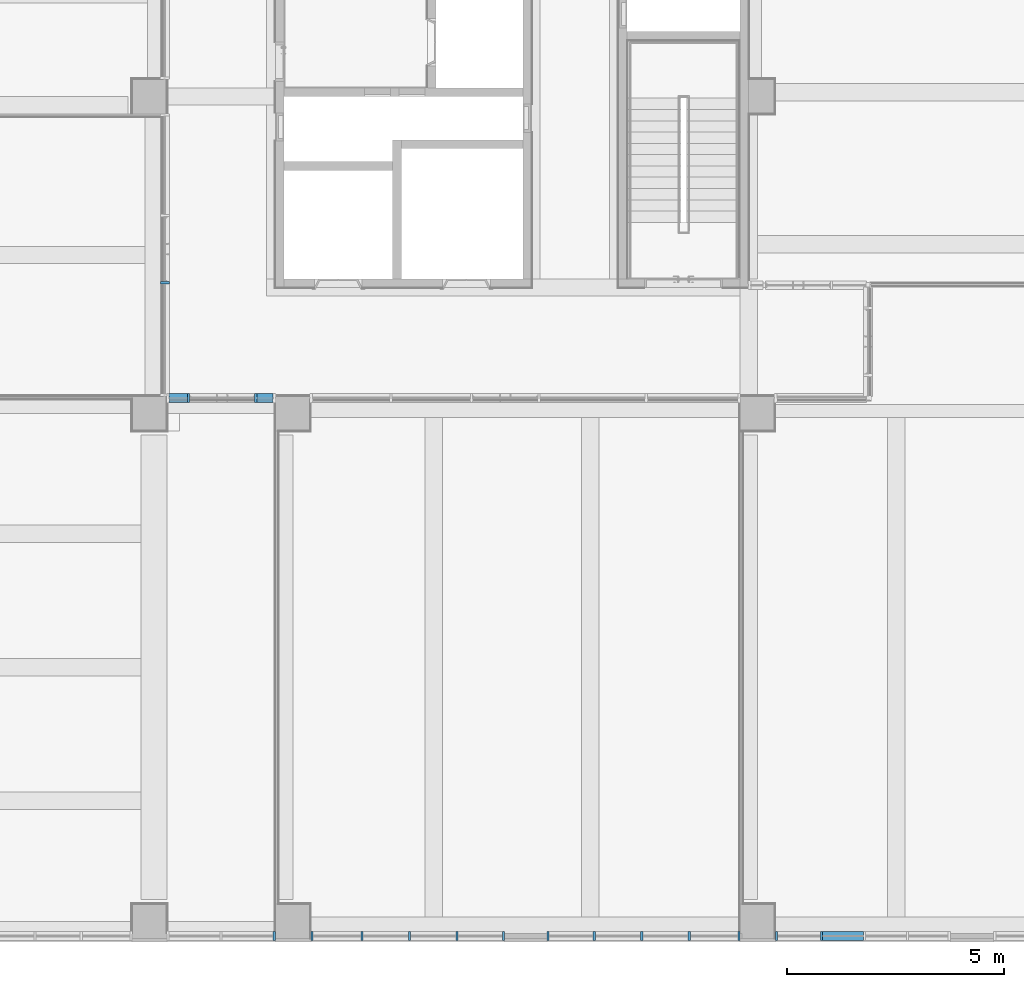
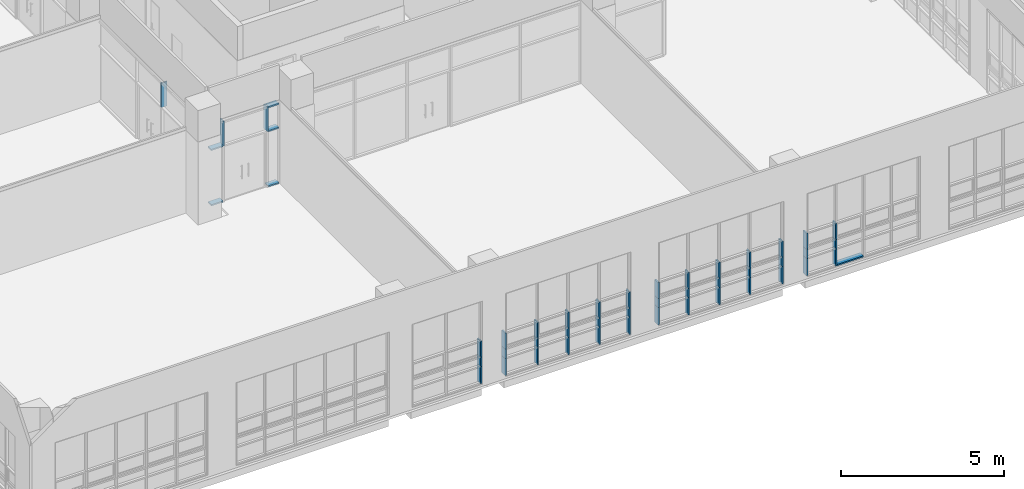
# One storey, part 16 of 74: 48 members, 6 elements without a shape of their own.
"""IFC2X3 building model written with IfcOpenShell, lengths in millimetres."""

import ifcopenshell
import ifcopenshell.guid

model = None  # the IFC model being written
_history = None  # IfcOwnerHistory: only IFC2X3 demands one
_inside = {}  # id of a spatial element -> (the spatial element, [elements in it])
_under = {}  # id of a project, library or spatial element -> (it, [spatial elements below it])
_declared = {}  # id of a project -> (the project, [libraries it declares])
_typed = {}  # id of a type object -> (the type object, [elements of that type])
_made_of = {}  # id of a material, layer set ... -> (it, [elements and type objects made of it])


def new_model(schema):
    """Start an empty IFC model of exactly this schema.

    Asked for "IFC4X3", IfcOpenShell would pick the latest addendum, in which some entities
    have other attributes; the version numbers below select the first issue.
    IFC2X3 requires an IfcOwnerHistory on every rooted entity: one is made here for all.
    """
    global model, _history
    if schema == "IFC4X3":
        model = ifcopenshell.file(schema_version=(4, 3, 0, 0))
    else:
        model = ifcopenshell.file(schema=schema)
    _inside.clear()
    _under.clear()
    _declared.clear()
    _typed.clear()
    _made_of.clear()
    _history = None
    if model.schema == "IFC2X3":
        org = make("IfcOrganization", Name="unknown")
        user = make(
            "IfcPersonAndOrganization",
            ThePerson=make("IfcPerson", FamilyName="unknown"),
            TheOrganization=org,
        )
        app = make(
            "IfcApplication",
            ApplicationDeveloper=org,
            Version="unknown",
            ApplicationFullName="unknown",
            ApplicationIdentifier="unknown",
        )
        _history = make(
            "IfcOwnerHistory",
            OwningUser=user,
            OwningApplication=app,
            ChangeAction="ADDED",
            CreationDate=0,
        )
    return model


def make(cls, **values):
    """One entity of the class cls with the attributes given. An attribute that is None is left unset."""
    return model.create_entity(
        cls, **{name: value for name, value in values.items() if value is not None}
    )


def entity(cls, *values):
    """Any entity or typed value of the class cls, its attributes in the order of the schema. None: left unset."""
    e = model.create_entity(cls)
    for i, value in enumerate(values):
        if value is not None:
            e[i] = value
    return e


def rooted(cls, **values):
    """An entity with a GlobalId (a new one), such as an element, a storey or a relation."""
    return make(cls, GlobalId=ifcopenshell.guid.new(), OwnerHistory=_history, **values)


def si_unit(unit_type, name, prefix=None):
    """IfcSIUnit, for example si_unit("LENGTHUNIT", "METRE", prefix="MILLI")."""
    return make("IfcSIUnit", UnitType=unit_type, Prefix=prefix, Name=name)


def converted_unit(unit_type, name, factor, base, dimensions=None, offset=None):
    """IfcConversionBasedUnit, such as the inch: factor (a typed value) times the base unit."""
    return make(
        "IfcConversionBasedUnit"
        if offset is None
        else "IfcConversionBasedUnitWithOffset",
        ConversionOffset=offset,
        Dimensions=None
        if dimensions is None
        else entity("IfcDimensionalExponents", *dimensions),
        UnitType=unit_type,
        Name=name,
        ConversionFactor=make(
            "IfcMeasureWithUnit", ValueComponent=factor, UnitComponent=base
        ),
    )


def derived_unit(unit_type, elements):
    """IfcDerivedUnit: a product of units, each with its exponent."""
    return make(
        "IfcDerivedUnit",
        Elements=[
            make("IfcDerivedUnitElement", Unit=unit, Exponent=power)
            for unit, power in elements
        ],
        UnitType=unit_type,
    )


def assignment(units):
    """IfcUnitAssignment: the units of a project."""
    return None if units is None else make("IfcUnitAssignment", Units=units)


def point(xyz):
    """IfcCartesianPoint."""
    return None if xyz is None else make("IfcCartesianPoint", Coordinates=xyz)


def direction(xyz):
    """IfcDirection."""
    return None if xyz is None else make("IfcDirection", DirectionRatios=xyz)


def frame(location, z_axis=None, x_axis=None):
    """IfcAxis2Placement3D, a coordinate frame: its origin and axes. An axis left out is left unset."""
    return make(
        "IfcAxis2Placement3D",
        Location=point(location),
        Axis=direction(z_axis),
        RefDirection=direction(x_axis),
    )


def frame_2d(location, x_axis=None):
    """IfcAxis2Placement2D, a coordinate frame in the plane: its origin and x axis."""
    return make(
        "IfcAxis2Placement2D", Location=point(location), RefDirection=direction(x_axis)
    )


def origin():
    """The frame at (0, 0, 0) with its axes left unset."""
    return frame((0.0, 0.0, 0.0))


def origin_2d_with_axis():
    """The frame at (0, 0) in the plane with the x axis (1, 0) written out."""
    return frame_2d((0.0, 0.0), x_axis=(1.0, 0.0))


def place(relative_to, where):
    """IfcLocalPlacement: puts the frame where relative to a parent placement (None: the world)."""
    return make(
        "IfcLocalPlacement", PlacementRelTo=relative_to, RelativePlacement=where
    )


def context(
    kind, dimensions, precision=None, world=None, true_north=None, identifier=None
):
    """IfcGeometricRepresentationContext, for example the 3D "Model" context."""
    return make(
        "IfcGeometricRepresentationContext",
        ContextIdentifier=identifier,
        ContextType=kind,
        CoordinateSpaceDimension=dimensions,
        Precision=precision,
        WorldCoordinateSystem=world,
        TrueNorth=true_north,
    )


def subcontext(parent, identifier, kind, view, scale=None):
    """IfcGeometricRepresentationSubContext, for example "Body" below "Model"."""
    return make(
        "IfcGeometricRepresentationSubContext",
        ContextIdentifier=identifier,
        ContextType=kind,
        ParentContext=parent,
        TargetScale=scale,
        TargetView=view,
    )


def project(units=None, contexts=None):
    """IfcProject with its units and contexts."""
    return rooted(
        "IfcProject",
        Name="project",
        RepresentationContexts=contexts,
        UnitsInContext=assignment(units),
    )


def spatial(cls, under=None, at=None, **own):
    """A site, building, storey or space (cls), placed at a placement, below another one or the project."""
    s = rooted(cls, ObjectPlacement=at, **own)
    if under is not None:
        _under.setdefault(under.id(), (under, []))[1].append(s)
    return s


def profile(cls, at=None, kind="AREA", **sizes):
    """A parametric profile (cls). Its sizes go by their IFC names, for example OverallWidth=200.0."""
    return make(cls, ProfileType=kind, Position=at, **sizes)


def rectangle(**sizes):
    """IfcRectangleProfileDef."""
    return profile("IfcRectangleProfileDef", **sizes)


def extrude(swept, where, along, depth):
    """IfcExtrudedAreaSolid: the profile swept, set in the frame where, extruded along a direction by depth."""
    return make(
        "IfcExtrudedAreaSolid",
        SweptArea=swept,
        Position=where,
        ExtrudedDirection=direction(along),
        Depth=depth,
    )


def shape(context_of_items, identifier, shape_type, items):
    """IfcShapeRepresentation: the items that make up one representation, for example the "Body"."""
    return make(
        "IfcShapeRepresentation",
        ContextOfItems=context_of_items,
        RepresentationIdentifier=identifier,
        RepresentationType=shape_type,
        Items=items,
    )


def source(mapping_origin, context_of_items, identifier, shape_type, items):
    """IfcRepresentationMap: a shape defined once, which mapped items show again and again."""
    return make(
        "IfcRepresentationMap",
        MappingOrigin=mapping_origin,
        MappedRepresentation=shape(context_of_items, identifier, shape_type, items),
    )


def transform(
    local_origin,
    x_axis=None,
    y_axis=None,
    z_axis=None,
    scale=None,
    scale2=None,
    scale3=None,
    uniform=True,
):
    """IfcCartesianTransformationOperator3D, or its non-uniform kind. x_axis, y_axis, z_axis: its Axis1, 2, 3."""
    if uniform:
        return make(
            "IfcCartesianTransformationOperator3D",
            Axis1=direction(x_axis),
            Axis2=direction(y_axis),
            LocalOrigin=point(local_origin),
            Scale=scale,
            Axis3=direction(z_axis),
        )
    return make(
        "IfcCartesianTransformationOperator3DnonUniform",
        Axis1=direction(x_axis),
        Axis2=direction(y_axis),
        LocalOrigin=point(local_origin),
        Scale=scale,
        Axis3=direction(z_axis),
        Scale2=scale2,
        Scale3=scale3,
    )


def mapped(mapping_source, mapping_target):
    """IfcMappedItem: shows the shape of a source again, moved by a transform."""
    return make(
        "IfcMappedItem", MappingSource=mapping_source, MappingTarget=mapping_target
    )


def material(Name=None, Category=None):
    """IfcMaterial."""
    return make("IfcMaterial", Name=Name, Category=Category)


def made_of(thing, what):
    """Note that an element or type object is made of a material, layer set ...; save() writes the relation."""
    if what is not None:
        _made_of.setdefault(what.id(), (what, []))[1].append(thing)
    return thing


def type_object(cls, material=None, **own):
    """A type object (cls), such as IfcWallType, which elements share."""
    return made_of(rooted(cls, **own), material)


def type_shapes(of_type, sources):
    """Give a type object the sources (RepresentationMaps) that its elements show as mapped items."""
    of_type.RepresentationMaps = sources


def element(
    cls,
    number,
    at=None,
    inside=None,
    cuts=None,
    type_object=None,
    material=None,
    context=None,
    identifier="Body",
    shape_type=None,
    held_by="IfcProductDefinitionShape",
    body=None,
    shapes=None,
    **own,
):
    """One element of the class cls, such as IfcWall. Its Tag is "e" and its number.

    at: its placement. inside: the storey or other place that contains it. cuts: it is an
    opening in that element (IfcRelVoidsElement). A single representation is given by context,
    identifier, shape_type and body (its items); several are given by shapes. held_by: the class
    of the entity that holds the representations. save() writes the other relations.
    """
    e = rooted(cls, Tag="e%d" % number, ObjectPlacement=at, **own)
    if body is not None:
        shapes = [shape(context, identifier, shape_type, body)]
    if shapes is not None:
        e.Representation = make(held_by, Representations=shapes)
    if inside is not None:
        _inside.setdefault(inside.id(), (inside, []))[1].append(e)
    if cuts is not None:
        rooted(
            "IfcRelVoidsElement", RelatingBuildingElement=cuts, RelatedOpeningElement=e
        )
    if type_object is not None:
        _typed.setdefault(type_object.id(), (type_object, []))[1].append(e)
    return made_of(e, material)


def aggregate(whole, parts):
    """IfcRelAggregates: a whole, such as a stair, and the parts it consists of."""
    return rooted("IfcRelAggregates", RelatingObject=whole, RelatedObjects=parts)


def save(model, path):
    """Write the relations noted so far, then the file.

    IfcRelAggregates (storeys below a building ...), IfcRelContainedInSpatialStructure (elements
    in a storey), IfcRelDefinesByType, IfcRelAssociatesMaterial and IfcRelDeclares: one each for
    every whole, place, type object, material and project.
    """
    for whole, parts in _under.values():
        aggregate(whole, parts)
    for where, things in _inside.values():
        rooted(
            "IfcRelContainedInSpatialStructure",
            RelatedElements=things,
            RelatingStructure=where,
        )
    for kind, things in _typed.values():
        rooted("IfcRelDefinesByType", RelatedObjects=things, RelatingType=kind)
    for what, things in _made_of.values():
        rooted("IfcRelAssociatesMaterial", RelatedObjects=things, RelatingMaterial=what)
    for by, libraries in _declared.values():
        rooted("IfcRelDeclares", RelatingContext=by, RelatedDefinitions=libraries)
    model.write(path)


model = new_model("IFC2X3")

# Units and contexts
model_context = context("Model", 3, precision=0.01, world=origin(), true_north=direction((6.123031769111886e-17, 1.0)))
body_context = subcontext(model_context, "Body", "Model", "MODEL_VIEW")
ifc_project = project(units=[si_unit("LENGTHUNIT", "METRE", prefix="MILLI"), si_unit("AREAUNIT", "SQUARE_METRE"), si_unit("VOLUMEUNIT", "CUBIC_METRE"), converted_unit("PLANEANGLEUNIT", "DEGREE", entity("IfcRatioMeasure", 0.017453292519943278), si_unit("PLANEANGLEUNIT", "RADIAN"), dimensions=[0, 0, 0, 0, 0, 0, 0]), si_unit("MASSUNIT", "GRAM", prefix="KILO"), derived_unit("MASSDENSITYUNIT", [(si_unit("MASSUNIT", "GRAM", prefix="KILO"), 1), (si_unit("LENGTHUNIT", "METRE"), -3)]), derived_unit("MOMENTOFINERTIAUNIT", [(si_unit("LENGTHUNIT", "METRE"), 4)]), si_unit("TIMEUNIT", "SECOND"), si_unit("FREQUENCYUNIT", "HERTZ"), si_unit("THERMODYNAMICTEMPERATUREUNIT", "DEGREE_CELSIUS"), derived_unit("THERMALTRANSMITTANCEUNIT", [(si_unit("MASSUNIT", "GRAM", prefix="KILO"), 1), (si_unit("THERMODYNAMICTEMPERATUREUNIT", "KELVIN"), -1), (si_unit("TIMEUNIT", "SECOND"), -3)]), derived_unit("VOLUMETRICFLOWRATEUNIT", [(si_unit("LENGTHUNIT", "METRE"), 3), (si_unit("TIMEUNIT", "SECOND"), -1)]), derived_unit("MASSFLOWRATEUNIT", [(si_unit("MASSUNIT", "GRAM", prefix="KILO"), 1), (si_unit("TIMEUNIT", "SECOND"), -1)]), derived_unit("ROTATIONALFREQUENCYUNIT", [(si_unit("TIMEUNIT", "SECOND"), -1)]), si_unit("ELECTRICCURRENTUNIT", "AMPERE"), si_unit("ELECTRICVOLTAGEUNIT", "VOLT"), si_unit("POWERUNIT", "WATT"), si_unit("FORCEUNIT", "NEWTON", prefix="KILO"), si_unit("ILLUMINANCEUNIT", "LUX"), si_unit("LUMINOUSFLUXUNIT", "LUMEN"), si_unit("LUMINOUSINTENSITYUNIT", "CANDELA"), derived_unit("USERDEFINED", [(si_unit("MASSUNIT", "GRAM", prefix="KILO"), -1), (si_unit("LENGTHUNIT", "METRE"), -2), (si_unit("TIMEUNIT", "SECOND"), 3), (si_unit("LUMINOUSFLUXUNIT", "LUMEN"), 1)]), derived_unit("SOUNDPOWERUNIT", [(si_unit("MASSUNIT", "GRAM", prefix="KILO"), 1), (si_unit("LENGTHUNIT", "METRE"), 2), (si_unit("TIMEUNIT", "SECOND"), -3)]), derived_unit("SOUNDPRESSUREUNIT", [(si_unit("MASSUNIT", "GRAM", prefix="KILO"), 1), (si_unit("LENGTHUNIT", "METRE"), -1), (si_unit("TIMEUNIT", "SECOND"), -2)]), derived_unit("LINEARVELOCITYUNIT", [(si_unit("LENGTHUNIT", "METRE"), 1), (si_unit("TIMEUNIT", "SECOND"), -1)]), si_unit("PRESSUREUNIT", "PASCAL"), derived_unit("USERDEFINED", [(si_unit("LENGTHUNIT", "METRE"), -2), (si_unit("MASSUNIT", "GRAM", prefix="KILO"), 1), (si_unit("TIMEUNIT", "SECOND"), -2)]), derived_unit("LINEARFORCEUNIT", [(si_unit("MASSUNIT", "GRAM", prefix="KILO"), 1), (si_unit("LENGTHUNIT", "METRE"), 1), (si_unit("TIMEUNIT", "SECOND"), -2), (si_unit("LENGTHUNIT", "METRE"), -1)]), derived_unit("PLANARFORCEUNIT", [(si_unit("MASSUNIT", "GRAM", prefix="KILO"), 1), (si_unit("LENGTHUNIT", "METRE"), 1), (si_unit("TIMEUNIT", "SECOND"), -2), (si_unit("LENGTHUNIT", "METRE"), -2)])], contexts=[model_context])

# Site, building, storey
site_placement = place(None, frame((-14167.972527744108, -657.2125860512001, 0.0)))
site = spatial("IfcSite", under=ifc_project, at=site_placement, Name="Default", CompositionType="ELEMENT")
building_placement = place(site_placement, origin())
building = spatial("IfcBuilding", under=site, at=building_placement, Name="Sample Building", CompositionType="ELEMENT")
storey_placement = place(building_placement, frame((0.0, 0.0, 4800.0)))
storey = spatial("IfcBuildingStorey", under=building, at=storey_placement, Name="지상 2층", CompositionType="ELEMENT", Elevation=4800.000000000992)

# Curtain wall, member
curtain_wall_type = type_object("IfcCurtainWallType", Name="커튼월:CW112-스테인리스 스틸 커튼월", PredefinedType="NOTDEFINED")
curtain_wall_1_placement = place(storey_placement, frame((0.0, 0.0, -4800.0)))
curtain_wall_1 = element("IfcCurtainWall", 1, at=curtain_wall_1_placement, inside=storey, type_object=curtain_wall_type, Name="커튼월:CW112-스테인리스 스틸 커튼월", ObjectType="커튼월:CW112-스테인리스 스틸 커튼월")
ifc_material = material(Name="<Unnamed>")
member_type_1 = type_object("IfcMemberType", Name="직사각형 멀리언:CW200-직사각형 멀리언 50x200mm", PredefinedType="MULLION", material=ifc_material)
shared_shape_1 = source(origin(), body_context, "Body", "SweptSolid", [
    extrude(rectangle(XDim=200.0, YDim=50.0, at=origin_2d_with_axis()), frame((-25.0, 0.0, -650.0), z_axis=(0.0, 0.0, 1.0), x_axis=(0.0, -1.0, 0.0)), (0.0, 0.0, 1.0), 650.0000000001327),
])
type_shapes(member_type_1, [shared_shape_1])
member_1_placement = place(curtain_wall_1_placement, frame((30067.972463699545, 619.7122951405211, 4880.0), z_axis=(0.0, 0.0, -1.0), x_axis=(1.0, 0.0, 0.0)))
member_1 = element("IfcMember", 2, at=member_1_placement, type_object=member_type_1, material=ifc_material, Name="직사각형 멀리언:CW200-직사각형 멀리언 50x200mm", ObjectType="직사각형 멀리언:CW200-직사각형 멀리언 50x200mm", context=body_context, shape_type="MappedRepresentation", body=[
    mapped(shared_shape_1, transform((0.0, 0.0, 0.0), scale=1.0)),
])

curtain_wall_2_placement = place(storey_placement, frame((0.0, 0.0, -4800.0)))
curtain_wall_2 = element("IfcCurtainWall", 3, at=curtain_wall_2_placement, inside=storey, type_object=curtain_wall_type, Name="커튼월:CW112-스테인리스 스틸 커튼월", ObjectType="커튼월:CW112-스테인리스 스틸 커튼월")
member_2_placement = place(curtain_wall_2_placement, frame((35343.23862338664, 619.712295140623, 4880.0), z_axis=(0.0, 0.0, -1.0), x_axis=(1.0, 0.0, 0.0)))
member_2 = element("IfcMember", 4, at=member_2_placement, type_object=member_type_1, material=ifc_material, Name="직사각형 멀리언:CW200-직사각형 멀리언 50x200mm", ObjectType="직사각형 멀리언:CW200-직사각형 멀리언 50x200mm", context=body_context, shape_type="MappedRepresentation", body=[
    mapped(shared_shape_1, transform((0.0, 0.0, 0.0), scale=1.0)),
])

curtain_wall_3_placement = place(storey_placement, frame((0.0, 0.0, -4800.0)))
curtain_wall_3 = element("IfcCurtainWall", 5, at=curtain_wall_3_placement, inside=storey, type_object=curtain_wall_type, Name="커튼월:CW112-스테인리스 스틸 커튼월", ObjectType="커튼월:CW112-스테인리스 스틸 커튼월")
member_3_placement = place(curtain_wall_3_placement, frame((40767.97249113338, 619.7122951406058, 4880.0), z_axis=(0.0, 0.0, -1.0), x_axis=(1.0, 0.0, 0.0)))
member_3 = element("IfcMember", 6, at=member_3_placement, type_object=member_type_1, material=ifc_material, Name="직사각형 멀리언:CW200-직사각형 멀리언 50x200mm", ObjectType="직사각형 멀리언:CW200-직사각형 멀리언 50x200mm", context=body_context, shape_type="MappedRepresentation", body=[
    mapped(shared_shape_1, transform((0.0, 0.0, 0.0), scale=1.0)),
])

# Member
member_type_2 = type_object("IfcMemberType", Name="직사각형 멀리언:CW200-직사각형 멀리언 50x200mm", PredefinedType="MULLION", material=ifc_material)
shared_shape_2 = source(origin(), body_context, "Body", "SweptSolid", [
    extrude(rectangle(XDim=200.0, YDim=50.0, at=origin_2d_with_axis()), frame((0.0, 0.0, -650.0), z_axis=(0.0, 0.0, 1.0), x_axis=(0.0, -1.0, 0.0)), (0.0, 0.0, 1.0), 650.0000000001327),
])
type_shapes(member_type_2, [shared_shape_2])
member_4_placement = place(curtain_wall_2_placement, frame((32061.98862338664, 619.7122951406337, 4880.0), z_axis=(0.0, 0.0, -1.0), x_axis=(1.0, 0.0, 0.0)))
member_4 = element("IfcMember", 7, at=member_4_placement, type_object=member_type_2, material=ifc_material, Name="직사각형 멀리언:CW200-직사각형 멀리언 50x200mm", ObjectType="직사각형 멀리언:CW200-직사각형 멀리언 50x200mm", context=body_context, shape_type="MappedRepresentation", body=[
    mapped(shared_shape_2, transform((0.0, 0.0, 0.0), scale=1.0)),
])

member_5_placement = place(curtain_wall_2_placement, frame((33155.73862338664, 619.7122951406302, 4880.0), z_axis=(0.0, 0.0, -1.0), x_axis=(1.0, 0.0, 0.0)))
member_5 = element("IfcMember", 8, at=member_5_placement, type_object=member_type_2, material=ifc_material, Name="직사각형 멀리언:CW200-직사각형 멀리언 50x200mm", ObjectType="직사각형 멀리언:CW200-직사각형 멀리언 50x200mm", context=body_context, shape_type="MappedRepresentation", body=[
    mapped(shared_shape_2, transform((0.0, 0.0, 0.0), scale=1.0)),
])

member_6_placement = place(curtain_wall_2_placement, frame((34249.48862338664, 619.7122951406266, 4880.0), z_axis=(0.0, 0.0, -1.0), x_axis=(1.0, 0.0, 0.0)))
member_6 = element("IfcMember", 9, at=member_6_placement, type_object=member_type_2, material=ifc_material, Name="직사각형 멀리언:CW200-직사각형 멀리언 50x200mm", ObjectType="직사각형 멀리언:CW200-직사각형 멀리언 50x200mm", context=body_context, shape_type="MappedRepresentation", body=[
    mapped(shared_shape_2, transform((0.0, 0.0, 0.0), scale=1.0)),
])

member_7_placement = place(curtain_wall_3_placement, frame((37411.89751886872, 619.7122951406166, 4880.0), z_axis=(0.0, 0.0, -1.0), x_axis=(1.0, 0.0, 0.0)))
member_7 = element("IfcMember", 10, at=member_7_placement, type_object=member_type_2, material=ifc_material, Name="직사각형 멀리언:CW200-직사각형 멀리언 50x200mm", ObjectType="직사각형 멀리언:CW200-직사각형 멀리언 50x200mm", context=body_context, shape_type="MappedRepresentation", body=[
    mapped(shared_shape_2, transform((0.0, 0.0, 0.0), scale=1.0)),
])

member_8_placement = place(curtain_wall_3_placement, frame((38505.64751886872, 619.712295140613, 4880.0), z_axis=(0.0, 0.0, -1.0), x_axis=(1.0, 0.0, 0.0)))
member_8 = element("IfcMember", 11, at=member_8_placement, type_object=member_type_2, material=ifc_material, Name="직사각형 멀리언:CW200-직사각형 멀리언 50x200mm", ObjectType="직사각형 멀리언:CW200-직사각형 멀리언 50x200mm", context=body_context, shape_type="MappedRepresentation", body=[
    mapped(shared_shape_2, transform((0.0, 0.0, 0.0), scale=1.0)),
])

member_9_placement = place(curtain_wall_3_placement, frame((39599.39751886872, 619.7122951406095, 4880.0), z_axis=(0.0, 0.0, -1.0), x_axis=(1.0, 0.0, 0.0)))
member_9 = element("IfcMember", 12, at=member_9_placement, type_object=member_type_2, material=ifc_material, Name="직사각형 멀리언:CW200-직사각형 멀리언 50x200mm", ObjectType="직사각형 멀리언:CW200-직사각형 멀리언 50x200mm", context=body_context, shape_type="MappedRepresentation", body=[
    mapped(shared_shape_2, transform((0.0, 0.0, 0.0), scale=1.0)),
])

# Curtain wall, member
curtain_wall_4_placement = place(storey_placement, frame((0.0, 0.0, -4800.0)))
curtain_wall_4 = element("IfcCurtainWall", 13, at=curtain_wall_4_placement, inside=storey, type_object=curtain_wall_type, Name="커튼월:CW112-스테인리스 스틸 커튼월", ObjectType="커튼월:CW112-스테인리스 스틸 커튼월")
member_10_placement = place(curtain_wall_4_placement, frame((42649.57127232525, 619.7122951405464, 4880.0), z_axis=(0.0, 0.0, -1.0), x_axis=(1.0, 0.0, 0.0)))
member_10 = element("IfcMember", 14, at=member_10_placement, type_object=member_type_2, material=ifc_material, Name="직사각형 멀리언:CW200-직사각형 멀리언 50x200mm", ObjectType="직사각형 멀리언:CW200-직사각형 멀리언 50x200mm", context=body_context, shape_type="MappedRepresentation", body=[
    mapped(shared_shape_2, transform((0.0, 0.0, 0.0), scale=1.0)),
])

# Member
member_type_3 = type_object("IfcMemberType", Name="직사각형 멀리언:CW200-직사각형 멀리언 50x200mm", PredefinedType="MULLION", material=ifc_material)
shared_shape_3 = source(origin(), body_context, "Body", "SweptSolid", [
    extrude(rectangle(XDim=200.0, YDim=50.0, at=origin_2d_with_axis()), frame((-25.0, 0.0, -600.0), z_axis=(0.0, 0.0, 1.0), x_axis=(0.0, -1.0, 0.0)), (0.0, 0.0, 1.0), 600.0),
])
type_shapes(member_type_3, [shared_shape_3])
member_11_placement = place(curtain_wall_2_placement, frame((30885.972463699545, 619.7122951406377, 6480.0), z_axis=(0.0, 0.0, 1.0), x_axis=(-1.0, 0.0, 0.0)))
member_11 = element("IfcMember", 15, at=member_11_placement, type_object=member_type_3, material=ifc_material, Name="직사각형 멀리언:CW200-직사각형 멀리언 50x200mm", ObjectType="직사각형 멀리언:CW200-직사각형 멀리언 50x200mm", context=body_context, shape_type="MappedRepresentation", body=[
    mapped(shared_shape_3, transform((0.0, 0.0, 0.0), scale=1.0)),
])

member_12_placement = place(curtain_wall_3_placement, frame((36318.14751886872, 619.7122951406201, 6480.0), z_axis=(0.0, 0.0, 1.0), x_axis=(-1.0, 0.0, 0.0)))
member_12 = element("IfcMember", 16, at=member_12_placement, type_object=member_type_3, material=ifc_material, Name="직사각형 멀리언:CW200-직사각형 멀리언 50x200mm", ObjectType="직사각형 멀리언:CW200-직사각형 멀리언 50x200mm", context=body_context, shape_type="MappedRepresentation", body=[
    mapped(shared_shape_3, transform((0.0, 0.0, 0.0), scale=1.0)),
])

member_13_placement = place(curtain_wall_4_placement, frame((41585.972491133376, 619.7122951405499, 6480.0), z_axis=(0.0, 0.0, 1.0), x_axis=(-1.0, 0.0, 0.0)))
member_13 = element("IfcMember", 17, at=member_13_placement, type_object=member_type_3, material=ifc_material, Name="직사각형 멀리언:CW200-직사각형 멀리언 50x200mm", ObjectType="직사각형 멀리언:CW200-직사각형 멀리언 50x200mm", context=body_context, shape_type="MappedRepresentation", body=[
    mapped(shared_shape_3, transform((0.0, 0.0, 0.0), scale=1.0)),
])

member_type_4 = type_object("IfcMemberType", Name="직사각형 멀리언:CW200-직사각형 멀리언 50x200mm", PredefinedType="MULLION", material=ifc_material)
shared_shape_4 = source(origin(), body_context, "Body", "SweptSolid", [
    extrude(rectangle(XDim=200.0, YDim=50.0, at=origin_2d_with_axis()), frame((-25.0, 0.0, -600.0), z_axis=(0.0, 0.0, 1.0), x_axis=(0.0, -1.0, 0.0)), (0.0, 0.0, 1.0), 600.0),
])
type_shapes(member_type_4, [shared_shape_4])
member_14_placement = place(curtain_wall_1_placement, frame((30067.972463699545, 619.7122951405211, 5880.0), z_axis=(0.0, 0.0, -1.0), x_axis=(1.0, 0.0, 0.0)))
member_14 = element("IfcMember", 18, at=member_14_placement, type_object=member_type_4, material=ifc_material, Name="직사각형 멀리언:CW200-직사각형 멀리언 50x200mm", ObjectType="직사각형 멀리언:CW200-직사각형 멀리언 50x200mm", context=body_context, shape_type="MappedRepresentation", body=[
    mapped(shared_shape_4, transform((0.0, 0.0, 0.0), scale=1.0)),
])

member_15_placement = place(curtain_wall_2_placement, frame((35343.23862338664, 619.712295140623, 5880.0), z_axis=(0.0, 0.0, -1.0), x_axis=(1.0, 0.0, 0.0)))
member_15 = element("IfcMember", 19, at=member_15_placement, type_object=member_type_4, material=ifc_material, Name="직사각형 멀리언:CW200-직사각형 멀리언 50x200mm", ObjectType="직사각형 멀리언:CW200-직사각형 멀리언 50x200mm", context=body_context, shape_type="MappedRepresentation", body=[
    mapped(shared_shape_4, transform((0.0, 0.0, 0.0), scale=1.0)),
])

member_16_placement = place(curtain_wall_3_placement, frame((40767.97249113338, 619.7122951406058, 5880.0), z_axis=(0.0, 0.0, -1.0), x_axis=(1.0, 0.0, 0.0)))
member_16 = element("IfcMember", 20, at=member_16_placement, type_object=member_type_4, material=ifc_material, Name="직사각형 멀리언:CW200-직사각형 멀리언 50x200mm", ObjectType="직사각형 멀리언:CW200-직사각형 멀리언 50x200mm", context=body_context, shape_type="MappedRepresentation", body=[
    mapped(shared_shape_4, transform((0.0, 0.0, 0.0), scale=1.0)),
])

member_type_5 = type_object("IfcMemberType", Name="직사각형 멀리언:CW200-직사각형 멀리언 50x200mm", PredefinedType="MULLION", material=ifc_material)
shared_shape_5 = source(origin(), body_context, "Body", "SweptSolid", [
    extrude(rectangle(XDim=200.0, YDim=50.0, at=origin_2d_with_axis()), frame((-25.0, 0.0, -350.0), z_axis=(0.0, 0.0, 1.0), x_axis=(0.0, -1.0, 0.0)), (0.0, 0.0, 1.0), 349.9999999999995),
])
type_shapes(member_type_5, [shared_shape_5])
member_17_placement = place(curtain_wall_2_placement, frame((30885.972463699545, 619.7122951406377, 5880.0), z_axis=(0.0, 0.0, 1.0), x_axis=(-1.0, 0.0, 0.0)))
member_17 = element("IfcMember", 21, at=member_17_placement, type_object=member_type_5, material=ifc_material, Name="직사각형 멀리언:CW200-직사각형 멀리언 50x200mm", ObjectType="직사각형 멀리언:CW200-직사각형 멀리언 50x200mm", context=body_context, shape_type="MappedRepresentation", body=[
    mapped(shared_shape_5, transform((0.0, 0.0, 0.0), scale=1.0)),
])

member_18_placement = place(curtain_wall_3_placement, frame((36318.14751886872, 619.7122951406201, 5880.0), z_axis=(0.0, 0.0, 1.0), x_axis=(-1.0, 0.0, 0.0)))
member_18 = element("IfcMember", 22, at=member_18_placement, type_object=member_type_5, material=ifc_material, Name="직사각형 멀리언:CW200-직사각형 멀리언 50x200mm", ObjectType="직사각형 멀리언:CW200-직사각형 멀리언 50x200mm", context=body_context, shape_type="MappedRepresentation", body=[
    mapped(shared_shape_5, transform((0.0, 0.0, 0.0), scale=1.0)),
])

member_19_placement = place(curtain_wall_4_placement, frame((41585.972491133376, 619.7122951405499, 5880.0), z_axis=(0.0, 0.0, 1.0), x_axis=(-1.0, 0.0, 0.0)))
member_19 = element("IfcMember", 23, at=member_19_placement, type_object=member_type_5, material=ifc_material, Name="직사각형 멀리언:CW200-직사각형 멀리언 50x200mm", ObjectType="직사각형 멀리언:CW200-직사각형 멀리언 50x200mm", context=body_context, shape_type="MappedRepresentation", body=[
    mapped(shared_shape_5, transform((0.0, 0.0, 0.0), scale=1.0)),
])

member_type_6 = type_object("IfcMemberType", Name="직사각형 멀리언:CW200-직사각형 멀리언 50x200mm", PredefinedType="MULLION", material=ifc_material)
shared_shape_6 = source(origin(), body_context, "Body", "SweptSolid", [
    extrude(rectangle(XDim=200.0, YDim=50.0, at=origin_2d_with_axis()), frame((0.0, 0.0, -600.0), z_axis=(0.0, 0.0, 1.0), x_axis=(0.0, -1.0, 0.0)), (0.0, 0.0, 1.0), 600.0),
])
type_shapes(member_type_6, [shared_shape_6])
member_20_placement = place(curtain_wall_2_placement, frame((32061.98862338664, 619.7122951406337, 5880.0), z_axis=(0.0, 0.0, -1.0), x_axis=(1.0, 0.0, 0.0)))
member_20 = element("IfcMember", 24, at=member_20_placement, type_object=member_type_6, material=ifc_material, Name="직사각형 멀리언:CW200-직사각형 멀리언 50x200mm", ObjectType="직사각형 멀리언:CW200-직사각형 멀리언 50x200mm", context=body_context, shape_type="MappedRepresentation", body=[
    mapped(shared_shape_6, transform((0.0, 0.0, 0.0), scale=1.0)),
])

member_21_placement = place(curtain_wall_2_placement, frame((33155.73862338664, 619.7122951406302, 5880.0), z_axis=(0.0, 0.0, -1.0), x_axis=(1.0, 0.0, 0.0)))
member_21 = element("IfcMember", 25, at=member_21_placement, type_object=member_type_6, material=ifc_material, Name="직사각형 멀리언:CW200-직사각형 멀리언 50x200mm", ObjectType="직사각형 멀리언:CW200-직사각형 멀리언 50x200mm", context=body_context, shape_type="MappedRepresentation", body=[
    mapped(shared_shape_6, transform((0.0, 0.0, 0.0), scale=1.0)),
])

member_22_placement = place(curtain_wall_2_placement, frame((34249.48862338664, 619.7122951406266, 5880.0), z_axis=(0.0, 0.0, -1.0), x_axis=(1.0, 0.0, 0.0)))
member_22 = element("IfcMember", 26, at=member_22_placement, type_object=member_type_6, material=ifc_material, Name="직사각형 멀리언:CW200-직사각형 멀리언 50x200mm", ObjectType="직사각형 멀리언:CW200-직사각형 멀리언 50x200mm", context=body_context, shape_type="MappedRepresentation", body=[
    mapped(shared_shape_6, transform((0.0, 0.0, 0.0), scale=1.0)),
])

member_23_placement = place(curtain_wall_3_placement, frame((37411.89751886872, 619.7122951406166, 5880.0), z_axis=(0.0, 0.0, -1.0), x_axis=(1.0, 0.0, 0.0)))
member_23 = element("IfcMember", 27, at=member_23_placement, type_object=member_type_6, material=ifc_material, Name="직사각형 멀리언:CW200-직사각형 멀리언 50x200mm", ObjectType="직사각형 멀리언:CW200-직사각형 멀리언 50x200mm", context=body_context, shape_type="MappedRepresentation", body=[
    mapped(shared_shape_6, transform((0.0, 0.0, 0.0), scale=1.0)),
])

member_24_placement = place(curtain_wall_3_placement, frame((38505.64751886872, 619.712295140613, 5880.0), z_axis=(0.0, 0.0, -1.0), x_axis=(1.0, 0.0, 0.0)))
member_24 = element("IfcMember", 28, at=member_24_placement, type_object=member_type_6, material=ifc_material, Name="직사각형 멀리언:CW200-직사각형 멀리언 50x200mm", ObjectType="직사각형 멀리언:CW200-직사각형 멀리언 50x200mm", context=body_context, shape_type="MappedRepresentation", body=[
    mapped(shared_shape_6, transform((0.0, 0.0, 0.0), scale=1.0)),
])

member_25_placement = place(curtain_wall_3_placement, frame((39599.39751886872, 619.7122951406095, 5880.0), z_axis=(0.0, 0.0, -1.0), x_axis=(1.0, 0.0, 0.0)))
member_25 = element("IfcMember", 29, at=member_25_placement, type_object=member_type_6, material=ifc_material, Name="직사각형 멀리언:CW200-직사각형 멀리언 50x200mm", ObjectType="직사각형 멀리언:CW200-직사각형 멀리언 50x200mm", context=body_context, shape_type="MappedRepresentation", body=[
    mapped(shared_shape_6, transform((0.0, 0.0, 0.0), scale=1.0)),
])

member_26_placement = place(curtain_wall_4_placement, frame((42649.57127232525, 619.7122951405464, 5880.0), z_axis=(0.0, 0.0, -1.0), x_axis=(1.0, 0.0, 0.0)))
member_26 = element("IfcMember", 30, at=member_26_placement, type_object=member_type_6, material=ifc_material, Name="직사각형 멀리언:CW200-직사각형 멀리언 50x200mm", ObjectType="직사각형 멀리언:CW200-직사각형 멀리언 50x200mm", context=body_context, shape_type="MappedRepresentation", body=[
    mapped(shared_shape_6, transform((0.0, 0.0, 0.0), scale=1.0)),
])

member_type_7 = type_object("IfcMemberType", Name="직사각형 멀리언:CW200-직사각형 멀리언 50x200mm", PredefinedType="MULLION", material=ifc_material)
shared_shape_7 = source(origin(), body_context, "Body", "SweptSolid", [
    extrude(rectangle(XDim=200.0, YDim=50.0, at=origin_2d_with_axis()), frame((-25.0, 0.0, -350.0), z_axis=(0.0, 0.0, 1.0), x_axis=(0.0, -1.0, 0.0)), (0.0, 0.0, 1.0), 349.9999999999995),
])
type_shapes(member_type_7, [shared_shape_7])
member_27_placement = place(curtain_wall_1_placement, frame((30067.972463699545, 619.7122951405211, 5530.0), z_axis=(0.0, 0.0, -1.0), x_axis=(1.0, 0.0, 0.0)))
member_27 = element("IfcMember", 31, at=member_27_placement, type_object=member_type_7, material=ifc_material, Name="직사각형 멀리언:CW200-직사각형 멀리언 50x200mm", ObjectType="직사각형 멀리언:CW200-직사각형 멀리언 50x200mm", context=body_context, shape_type="MappedRepresentation", body=[
    mapped(shared_shape_7, transform((0.0, 0.0, 0.0), scale=1.0)),
])

aggregate(curtain_wall_1, [member_1, member_14, member_27])

member_28_placement = place(curtain_wall_2_placement, frame((35343.23862338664, 619.712295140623, 5530.0), z_axis=(0.0, 0.0, -1.0), x_axis=(1.0, 0.0, 0.0)))
member_28 = element("IfcMember", 32, at=member_28_placement, type_object=member_type_7, material=ifc_material, Name="직사각형 멀리언:CW200-직사각형 멀리언 50x200mm", ObjectType="직사각형 멀리언:CW200-직사각형 멀리언 50x200mm", context=body_context, shape_type="MappedRepresentation", body=[
    mapped(shared_shape_7, transform((0.0, 0.0, 0.0), scale=1.0)),
])

member_29_placement = place(curtain_wall_3_placement, frame((40767.97249113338, 619.7122951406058, 5530.0), z_axis=(0.0, 0.0, -1.0), x_axis=(1.0, 0.0, 0.0)))
member_29 = element("IfcMember", 33, at=member_29_placement, type_object=member_type_7, material=ifc_material, Name="직사각형 멀리언:CW200-직사각형 멀리언 50x200mm", ObjectType="직사각형 멀리언:CW200-직사각형 멀리언 50x200mm", context=body_context, shape_type="MappedRepresentation", body=[
    mapped(shared_shape_7, transform((0.0, 0.0, 0.0), scale=1.0)),
])

member_type_8 = type_object("IfcMemberType", Name="직사각형 멀리언:CW200-직사각형 멀리언 50x200mm", PredefinedType="MULLION", material=ifc_material)
shared_shape_8 = source(origin(), body_context, "Body", "SweptSolid", [
    extrude(rectangle(XDim=200.0, YDim=50.0, at=origin_2d_with_axis()), frame((-25.0, 0.0, -650.0), z_axis=(0.0, 0.0, 1.0), x_axis=(0.0, -1.0, 0.0)), (0.0, 0.0, 1.0), 650.0000000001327),
])
type_shapes(member_type_8, [shared_shape_8])
member_30_placement = place(curtain_wall_2_placement, frame((30885.972463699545, 619.7122951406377, 5530.0), z_axis=(0.0, 0.0, 1.0), x_axis=(-1.0, 0.0, 0.0)))
member_30 = element("IfcMember", 34, at=member_30_placement, type_object=member_type_8, material=ifc_material, Name="직사각형 멀리언:CW200-직사각형 멀리언 50x200mm", ObjectType="직사각형 멀리언:CW200-직사각형 멀리언 50x200mm", context=body_context, shape_type="MappedRepresentation", body=[
    mapped(shared_shape_8, transform((0.0, 0.0, 0.0), scale=1.0)),
])

member_31_placement = place(curtain_wall_3_placement, frame((36318.14751886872, 619.7122951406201, 5530.0), z_axis=(0.0, 0.0, 1.0), x_axis=(-1.0, 0.0, 0.0)))
member_31 = element("IfcMember", 35, at=member_31_placement, type_object=member_type_8, material=ifc_material, Name="직사각형 멀리언:CW200-직사각형 멀리언 50x200mm", ObjectType="직사각형 멀리언:CW200-직사각형 멀리언 50x200mm", context=body_context, shape_type="MappedRepresentation", body=[
    mapped(shared_shape_8, transform((0.0, 0.0, 0.0), scale=1.0)),
])

member_32_placement = place(curtain_wall_4_placement, frame((41585.972491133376, 619.7122951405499, 5530.0), z_axis=(0.0, 0.0, 1.0), x_axis=(-1.0, 0.0, 0.0)))
member_32 = element("IfcMember", 36, at=member_32_placement, type_object=member_type_8, material=ifc_material, Name="직사각형 멀리언:CW200-직사각형 멀리언 50x200mm", ObjectType="직사각형 멀리언:CW200-직사각형 멀리언 50x200mm", context=body_context, shape_type="MappedRepresentation", body=[
    mapped(shared_shape_8, transform((0.0, 0.0, 0.0), scale=1.0)),
])

member_type_9 = type_object("IfcMemberType", Name="직사각형 멀리언:CW200-직사각형 멀리언 50x200mm", PredefinedType="MULLION", material=ifc_material)
shared_shape_9 = source(origin(), body_context, "Body", "SweptSolid", [
    extrude(rectangle(XDim=200.0, YDim=50.0, at=origin_2d_with_axis()), frame((0.0, 0.0, -350.0), z_axis=(0.0, 0.0, 1.0), x_axis=(0.0, -1.0, 0.0)), (0.0, 0.0, 1.0), 349.9999999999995),
])
type_shapes(member_type_9, [shared_shape_9])
member_33_placement = place(curtain_wall_2_placement, frame((32061.98862338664, 619.7122951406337, 5530.0), z_axis=(0.0, 0.0, -1.0), x_axis=(1.0, 0.0, 0.0)))
member_33 = element("IfcMember", 37, at=member_33_placement, type_object=member_type_9, material=ifc_material, Name="직사각형 멀리언:CW200-직사각형 멀리언 50x200mm", ObjectType="직사각형 멀리언:CW200-직사각형 멀리언 50x200mm", context=body_context, shape_type="MappedRepresentation", body=[
    mapped(shared_shape_9, transform((0.0, 0.0, 0.0), scale=1.0)),
])

member_34_placement = place(curtain_wall_2_placement, frame((33155.73862338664, 619.7122951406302, 5530.0), z_axis=(0.0, 0.0, -1.0), x_axis=(1.0, 0.0, 0.0)))
member_34 = element("IfcMember", 38, at=member_34_placement, type_object=member_type_9, material=ifc_material, Name="직사각형 멀리언:CW200-직사각형 멀리언 50x200mm", ObjectType="직사각형 멀리언:CW200-직사각형 멀리언 50x200mm", context=body_context, shape_type="MappedRepresentation", body=[
    mapped(shared_shape_9, transform((0.0, 0.0, 0.0), scale=1.0)),
])

member_35_placement = place(curtain_wall_2_placement, frame((34249.48862338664, 619.7122951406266, 5530.0), z_axis=(0.0, 0.0, -1.0), x_axis=(1.0, 0.0, 0.0)))
member_35 = element("IfcMember", 39, at=member_35_placement, type_object=member_type_9, material=ifc_material, Name="직사각형 멀리언:CW200-직사각형 멀리언 50x200mm", ObjectType="직사각형 멀리언:CW200-직사각형 멀리언 50x200mm", context=body_context, shape_type="MappedRepresentation", body=[
    mapped(shared_shape_9, transform((0.0, 0.0, 0.0), scale=1.0)),
])

aggregate(curtain_wall_2, [member_2, member_4, member_5, member_11, member_6, member_15, member_17, member_20, member_21, member_22, member_28, member_30, member_33, member_34, member_35])

member_36_placement = place(curtain_wall_3_placement, frame((37411.89751886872, 619.7122951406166, 5530.0), z_axis=(0.0, 0.0, -1.0), x_axis=(1.0, 0.0, 0.0)))
member_36 = element("IfcMember", 40, at=member_36_placement, type_object=member_type_9, material=ifc_material, Name="직사각형 멀리언:CW200-직사각형 멀리언 50x200mm", ObjectType="직사각형 멀리언:CW200-직사각형 멀리언 50x200mm", context=body_context, shape_type="MappedRepresentation", body=[
    mapped(shared_shape_9, transform((0.0, 0.0, 0.0), scale=1.0)),
])

member_37_placement = place(curtain_wall_3_placement, frame((38505.64751886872, 619.712295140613, 5530.0), z_axis=(0.0, 0.0, -1.0), x_axis=(1.0, 0.0, 0.0)))
member_37 = element("IfcMember", 41, at=member_37_placement, type_object=member_type_9, material=ifc_material, Name="직사각형 멀리언:CW200-직사각형 멀리언 50x200mm", ObjectType="직사각형 멀리언:CW200-직사각형 멀리언 50x200mm", context=body_context, shape_type="MappedRepresentation", body=[
    mapped(shared_shape_9, transform((0.0, 0.0, 0.0), scale=1.0)),
])

member_38_placement = place(curtain_wall_3_placement, frame((39599.39751886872, 619.7122951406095, 5530.0), z_axis=(0.0, 0.0, -1.0), x_axis=(1.0, 0.0, 0.0)))
member_38 = element("IfcMember", 42, at=member_38_placement, type_object=member_type_9, material=ifc_material, Name="직사각형 멀리언:CW200-직사각형 멀리언 50x200mm", ObjectType="직사각형 멀리언:CW200-직사각형 멀리언 50x200mm", context=body_context, shape_type="MappedRepresentation", body=[
    mapped(shared_shape_9, transform((0.0, 0.0, 0.0), scale=1.0)),
])

aggregate(curtain_wall_3, [member_3, member_12, member_7, member_16, member_18, member_23, member_29, member_31, member_36, member_8, member_37, member_24, member_9, member_38, member_25])

member_39_placement = place(curtain_wall_4_placement, frame((42649.57127232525, 619.7122951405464, 5530.0), z_axis=(0.0, 0.0, -1.0), x_axis=(1.0, 0.0, 0.0)))
member_39 = element("IfcMember", 43, at=member_39_placement, type_object=member_type_9, material=ifc_material, Name="직사각형 멀리언:CW200-직사각형 멀리언 50x200mm", ObjectType="직사각형 멀리언:CW200-직사각형 멀리언 50x200mm", context=body_context, shape_type="MappedRepresentation", body=[
    mapped(shared_shape_9, transform((0.0, 0.0, 0.0), scale=1.0)),
])

member_type_10 = type_object("IfcMemberType", Name="직사각형 멀리언:CW200-직사각형 멀리언 50x200mm", PredefinedType="MULLION", material=ifc_material)
shared_shape_10 = source(origin(), body_context, "Body", "SweptSolid", [
    extrude(rectangle(XDim=200.0, YDim=50.0, at=origin_2d_with_axis()), frame((-25.0, 0.0, -937.4999999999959), z_axis=(0.0, 0.0, 1.0), x_axis=(0.0, -1.0, 0.0)), (0.0, 0.0, 1.0), 937.5000000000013),
])
type_shapes(member_type_10, [shared_shape_10])
member_40_placement = place(curtain_wall_4_placement, frame((42674.57127232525, 619.7122951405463, 4880.0), z_axis=(-1.0, 0.0, 0.0), x_axis=(0.0, 0.0, -1.0)))
member_40 = element("IfcMember", 44, at=member_40_placement, type_object=member_type_10, material=ifc_material, Name="직사각형 멀리언:CW200-직사각형 멀리언 50x200mm", ObjectType="직사각형 멀리언:CW200-직사각형 멀리언 50x200mm", context=body_context, shape_type="MappedRepresentation", body=[
    mapped(shared_shape_10, transform((0.0, 0.0, 0.0), scale=1.0)),
])

aggregate(curtain_wall_4, [member_13, member_40, member_10, member_19, member_26, member_32, member_39])

# Curtain wall, member
curtain_wall_5_placement = place(storey_placement, frame((0.0, 0.0, -4800.0)))
curtain_wall_5 = element("IfcCurtainWall", 45, at=curtain_wall_5_placement, inside=storey, type_object=curtain_wall_type, Name="커튼월:CW112-스테인리스 스틸 커튼월", ObjectType="커튼월:CW112-스테인리스 스틸 커튼월")
member_type_11 = type_object("IfcMemberType", Name="직사각형 멀리언:CW200-직사각형 멀리언 50x200mm", PredefinedType="MULLION", material=ifc_material)
shared_shape_11 = source(origin(), body_context, "Body", "SweptSolid", [
    extrude(rectangle(XDim=200.0, YDim=50.0, at=origin_2d_with_axis()), frame((0.0, 0.0, -920.0), z_axis=(0.0, 0.0, 1.0), x_axis=(0.0, -1.0, 0.0)), (0.0, 0.0, 1.0), 920.0000000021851),
])
type_shapes(member_type_11, [shared_shape_11])
member_41_placement = place(curtain_wall_5_placement, frame((27522.972491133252, 15667.17762439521, 6980.0), z_axis=(0.0, 0.0, -1.0), x_axis=(0.0, -1.0, 0.0)))
member_41 = element("IfcMember", 46, at=member_41_placement, type_object=member_type_11, material=ifc_material, Name="직사각형 멀리언:CW200-직사각형 멀리언 50x200mm", ObjectType="직사각형 멀리언:CW200-직사각형 멀리언 50x200mm", context=body_context, shape_type="MappedRepresentation", body=[
    mapped(shared_shape_11, transform((0.0, 0.0, 0.0), scale=1.0)),
])
aggregate(curtain_wall_5, [member_41])

# Curtain wall, members
curtain_wall_6_placement = place(storey_placement, frame((0.0, 0.0, -4800.0)))
curtain_wall_6 = element("IfcCurtainWall", 47, at=curtain_wall_6_placement, inside=storey, type_object=curtain_wall_type, Name="커튼월:CW112-스테인리스 스틸 커튼월", ObjectType="커튼월:CW112-스테인리스 스틸 커튼월")
member_type_12 = type_object("IfcMemberType", Name="직사각형 멀리언:CW200-직사각형 멀리언 50x200mm", PredefinedType="MULLION", material=ifc_material)
shared_shape_12 = source(origin(), body_context, "Body", "SweptSolid", [
    extrude(rectangle(XDim=200.0, YDim=50.0, at=origin_2d_with_axis()), frame((-25.0, 0.0, -376.8292998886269), z_axis=(0.0, 0.0, 1.0), x_axis=(0.0, -1.0, 0.0)), (0.0, 0.0, 1.0), 376.82929988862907),
])
type_shapes(member_type_12, [shared_shape_12])
member_42_placement = place(curtain_wall_6_placement, frame((30017.95511434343, 13012.212307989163, 4880.0), z_axis=(1.0, 0.0, 0.0), x_axis=(0.0, 0.0, -1.0)))
member_42 = element("IfcMember", 48, at=member_42_placement, type_object=member_type_12, material=ifc_material, Name="직사각형 멀리언:CW200-직사각형 멀리언 50x200mm", ObjectType="직사각형 멀리언:CW200-직사각형 멀리언 50x200mm", context=body_context, shape_type="MappedRepresentation", body=[
    mapped(shared_shape_12, transform((0.0, 0.0, 0.0), scale=1.0)),
])
member_type_13 = type_object("IfcMemberType", Name="직사각형 멀리언:CW200-직사각형 멀리언 50x200mm", PredefinedType="MULLION", material=ifc_material)
shared_shape_13 = source(origin(), body_context, "Body", "SweptSolid", [
    extrude(rectangle(XDim=200.0, YDim=50.0, at=origin_2d_with_axis()), frame((0.0, 0.0, -376.8466492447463), z_axis=(0.0, 0.0, 1.0), x_axis=(0.0, -1.0, 0.0)), (0.0, 0.0, 1.0), 376.8466492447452),
])
type_shapes(member_type_13, [shared_shape_13])
member_43_placement = place(curtain_wall_6_placement, frame((29641.1258144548, 13012.212307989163, 6980.0), z_axis=(-1.0, 0.0, 0.0), x_axis=(0.0, 0.0, 1.0)))
member_43 = element("IfcMember", 49, at=member_43_placement, type_object=member_type_13, material=ifc_material, Name="직사각형 멀리언:CW200-직사각형 멀리언 50x200mm", ObjectType="직사각형 멀리언:CW200-직사각형 멀리언 50x200mm", context=body_context, shape_type="MappedRepresentation", body=[
    mapped(shared_shape_13, transform((0.0, 0.0, 0.0), scale=1.0)),
])
member_type_14 = type_object("IfcMemberType", Name="직사각형 멀리언:CW200-직사각형 멀리언 50x200mm", PredefinedType="MULLION", material=ifc_material)
shared_shape_14 = source(origin(), body_context, "Body", "SweptSolid", [
    extrude(rectangle(XDim=200.0, YDim=50.0, at=origin_2d_with_axis()), frame((-25.0, 0.0, -376.8466492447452), z_axis=(0.0, 0.0, 1.0), x_axis=(0.0, -1.0, 0.0)), (0.0, 0.0, 1.0), 376.8466492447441),
])
type_shapes(member_type_14, [shared_shape_14])
member_44_placement = place(curtain_wall_6_placement, frame((29641.1258144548, 13012.212307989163, 7900.0), z_axis=(-1.0, 0.0, 0.0), x_axis=(0.0, 0.0, 1.0)))
member_44 = element("IfcMember", 50, at=member_44_placement, type_object=member_type_14, material=ifc_material, Name="직사각형 멀리언:CW200-직사각형 멀리언 50x200mm", ObjectType="직사각형 멀리언:CW200-직사각형 멀리언 50x200mm", context=body_context, shape_type="MappedRepresentation", body=[
    mapped(shared_shape_14, transform((0.0, 0.0, 0.0), scale=1.0)),
])
member_type_15 = type_object("IfcMemberType", Name="직사각형 멀리언:CW200-직사각형 멀리언 50x200mm", PredefinedType="MULLION", material=ifc_material)
shared_shape_15 = source(origin(), body_context, "Body", "SweptSolid", [
    extrude(rectangle(XDim=200.0, YDim=50.0, at=origin_2d_with_axis()), frame((0.0, 0.0, -920.0), z_axis=(0.0, 0.0, 1.0), x_axis=(0.0, -1.0, 0.0)), (0.0, 0.0, 1.0), 920.0000000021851),
])
type_shapes(member_type_15, [shared_shape_15])
member_45_placement = place(curtain_wall_6_placement, frame((29616.1258144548, 13012.212307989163, 6980.0), z_axis=(0.0, 0.0, -1.0), x_axis=(-1.0, 0.0, 0.0)))
member_45 = element("IfcMember", 51, at=member_45_placement, type_object=member_type_15, material=ifc_material, Name="직사각형 멀리언:CW200-직사각형 멀리언 50x200mm", ObjectType="직사각형 멀리언:CW200-직사각형 멀리언 50x200mm", context=body_context, shape_type="MappedRepresentation", body=[
    mapped(shared_shape_15, transform((0.0, 0.0, 0.0), scale=1.0)),
])
member_46_placement = place(curtain_wall_6_placement, frame((28066.1258144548, 13012.212307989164, 6980.0), z_axis=(0.0, 0.0, -1.0), x_axis=(-1.0, 0.0, 0.0)))
member_46 = element("IfcMember", 52, at=member_46_placement, type_object=member_type_15, material=ifc_material, Name="직사각형 멀리언:CW200-직사각형 멀리언 50x200mm", ObjectType="직사각형 멀리언:CW200-직사각형 멀리언 50x200mm", context=body_context, shape_type="MappedRepresentation", body=[
    mapped(shared_shape_15, transform((0.0, 0.0, 0.0), scale=1.0)),
])
member_type_16 = type_object("IfcMemberType", Name="직사각형 멀리언:CW200-직사각형 멀리언 50x200mm", PredefinedType="MULLION", material=ifc_material)
shared_shape_16 = source(origin(), body_context, "Body", "SweptSolid", [
    extrude(rectangle(XDim=200.0, YDim=50.0, at=origin_2d_with_axis()), frame((-25.0, 0.0, -423.1454999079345), z_axis=(0.0, 0.0, 1.0), x_axis=(0.0, -1.0, 0.0)), (0.0, 0.0, 1.0), 423.1454999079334),
])
type_shapes(member_type_16, [shared_shape_16])
member_47_placement = place(curtain_wall_6_placement, frame((28041.125814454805, 13012.212307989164, 4880.0), z_axis=(1.0, 0.0, 0.0), x_axis=(0.0, 0.0, -1.0)))
member_47 = element("IfcMember", 53, at=member_47_placement, type_object=member_type_16, material=ifc_material, Name="직사각형 멀리언:CW200-직사각형 멀리언 50x200mm", ObjectType="직사각형 멀리언:CW200-직사각형 멀리언 50x200mm", context=body_context, shape_type="MappedRepresentation", body=[
    mapped(shared_shape_16, transform((0.0, 0.0, 0.0), scale=1.0)),
])
member_type_17 = type_object("IfcMemberType", Name="직사각형 멀리언:CW200-직사각형 멀리언 50x200mm", PredefinedType="MULLION", material=ifc_material)
shared_shape_17 = source(origin(), body_context, "Body", "SweptSolid", [
    extrude(rectangle(XDim=200.0, YDim=50.0, at=origin_2d_with_axis()), frame((0.0, 0.0, -423.1454999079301), z_axis=(0.0, 0.0, 1.0), x_axis=(0.0, -1.0, 0.0)), (0.0, 0.0, 1.0), 423.1454999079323),
])
type_shapes(member_type_17, [shared_shape_17])
member_48_placement = place(curtain_wall_6_placement, frame((27617.980314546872, 13012.212307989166, 6980.0), z_axis=(-1.0, 0.0, 0.0), x_axis=(0.0, 0.0, 1.0)))
member_48 = element("IfcMember", 54, at=member_48_placement, type_object=member_type_17, material=ifc_material, Name="직사각형 멀리언:CW200-직사각형 멀리언 50x200mm", ObjectType="직사각형 멀리언:CW200-직사각형 멀리언 50x200mm", context=body_context, shape_type="MappedRepresentation", body=[
    mapped(shared_shape_17, transform((0.0, 0.0, 0.0), scale=1.0)),
])
aggregate(curtain_wall_6, [member_42, member_43, member_44, member_45, member_47, member_48, member_46])

save(model, "model.ifc")
